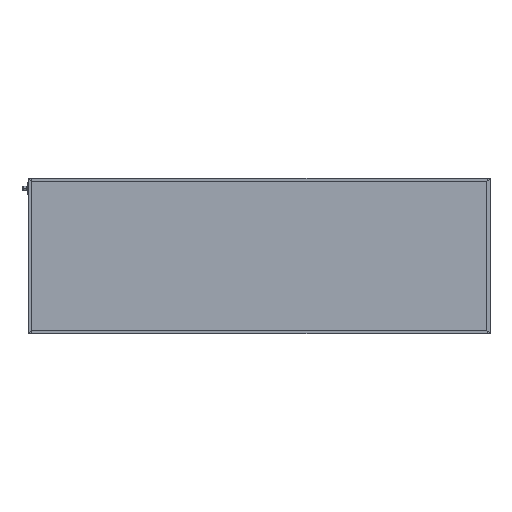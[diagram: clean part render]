
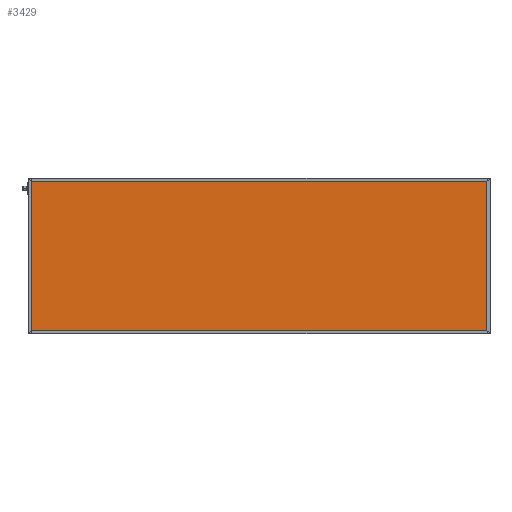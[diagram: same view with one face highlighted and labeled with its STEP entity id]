
A CAD part, top view. The second image highlights one B-rep face of the part: STEP entity #3429.
In plain terms, the highlighted planar face has unit normal (0, 0, 1).
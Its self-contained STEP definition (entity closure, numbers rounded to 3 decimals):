
#255 = LINE ( 'NONE', #2948, #7067 ) ;
#1121 = CARTESIAN_POINT ( 'NONE',  ( 4., 0., 41.85 ) ) ;
#1446 = EDGE_CURVE ( 'NONE', #10104, #7459, #4613, .T. ) ;
#1684 = VECTOR ( 'NONE', #15085, 1000. ) ;
#2340 = VECTOR ( 'NONE', #14325, 1000. ) ;
#2714 = FACE_OUTER_BOUND ( 'NONE', #15170, .T. ) ;
#2872 = VERTEX_POINT ( 'NONE', #16098 ) ;
#2948 = CARTESIAN_POINT ( 'NONE',  ( 0., 396., 41.85 ) ) ;
#3429 = ADVANCED_FACE ( 'NONE', ( #2714 ), #11950, .F. ) ;
#3671 = DIRECTION ( 'NONE',  ( -1., 0., 0. ) ) ;
#4613 = LINE ( 'NONE', #15255, #1684 ) ;
#4676 = ORIENTED_EDGE ( 'NONE', *, *, #8241, .T. ) ;
#4732 = AXIS2_PLACEMENT_3D ( 'NONE', #15617, #13349, #3671 ) ;
#4825 = CARTESIAN_POINT ( 'NONE',  ( 0., 4., 41.85 ) ) ;
#6348 = DIRECTION ( 'NONE',  ( 0., -1., 0. ) ) ;
#7067 = VECTOR ( 'NONE', #13587, 1000. ) ;
#7411 = CARTESIAN_POINT ( 'NONE',  ( 1196., 4., 41.85 ) ) ;
#7459 = VERTEX_POINT ( 'NONE', #7786 ) ;
#7786 = CARTESIAN_POINT ( 'NONE',  ( 1196., 396., 41.85 ) ) ;
#8241 = EDGE_CURVE ( 'NONE', #7459, #2872, #255, .T. ) ;
#8316 = EDGE_CURVE ( 'NONE', #12432, #10104, #10139, .T. ) ;
#9145 = EDGE_CURVE ( 'NONE', #2872, #12432, #16986, .T. ) ;
#9411 = CARTESIAN_POINT ( 'NONE',  ( 4., 4., 41.85 ) ) ;
#10104 = VERTEX_POINT ( 'NONE', #7411 ) ;
#10139 = LINE ( 'NONE', #4825, #2340 ) ;
#10420 = VECTOR ( 'NONE', #6348, 1000. ) ;
#10932 = ORIENTED_EDGE ( 'NONE', *, *, #1446, .T. ) ;
#11853 = ORIENTED_EDGE ( 'NONE', *, *, #9145, .T. ) ;
#11950 = PLANE ( 'NONE',  #4732 ) ;
#12432 = VERTEX_POINT ( 'NONE', #9411 ) ;
#13349 = DIRECTION ( 'NONE',  ( 0., 0., -1. ) ) ;
#13587 = DIRECTION ( 'NONE',  ( -1., 0., 0. ) ) ;
#14325 = DIRECTION ( 'NONE',  ( 1., 0., 0. ) ) ;
#15085 = DIRECTION ( 'NONE',  ( 0., 1., 0. ) ) ;
#15170 = EDGE_LOOP ( 'NONE', ( #10932, #4676, #11853, #15657 ) ) ;
#15255 = CARTESIAN_POINT ( 'NONE',  ( 1196., 0., 41.85 ) ) ;
#15617 = CARTESIAN_POINT ( 'NONE',  ( 0., 0., 41.85 ) ) ;
#15657 = ORIENTED_EDGE ( 'NONE', *, *, #8316, .T. ) ;
#16098 = CARTESIAN_POINT ( 'NONE',  ( 4., 396., 41.85 ) ) ;
#16986 = LINE ( 'NONE', #1121, #10420 ) ;
